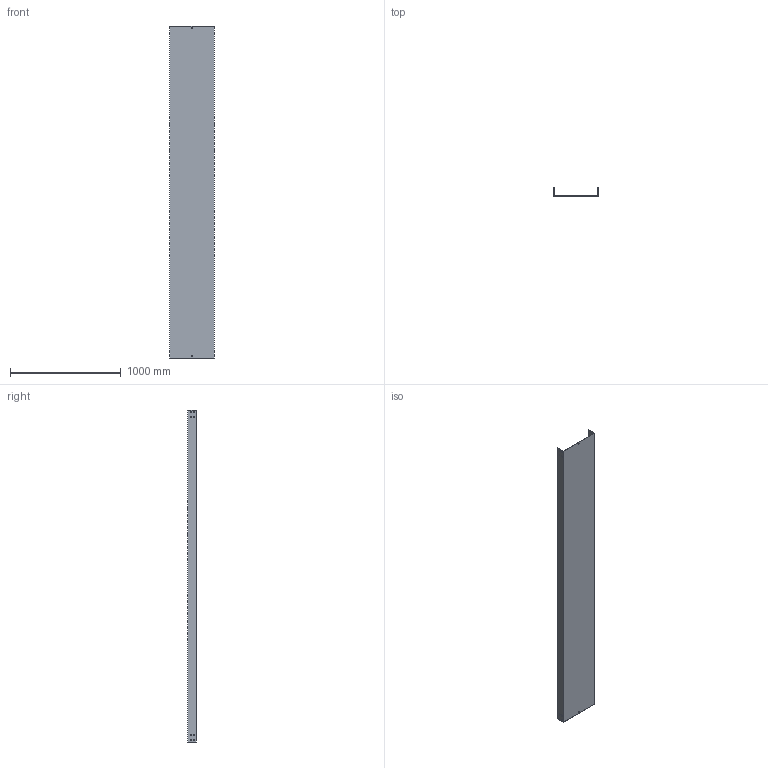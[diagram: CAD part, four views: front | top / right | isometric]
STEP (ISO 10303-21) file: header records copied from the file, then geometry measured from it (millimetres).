
FILE_DESCRIPTION (( 'STEP AP214' ), '1' );
FILE_NAME ('03B3C400.step', '2025-02-21T10:22:45', ( '' ), ( '' ), 'SwSTEP 2.0', 'SolidWorks 2023', '' );
FILE_SCHEMA (( 'AUTOMOTIVE_DESIGN' ));
Length unit declared in the file: millimetre
Products named in the file (1): 03B3C400
Bounding box: 404 x 79 x 3000 mm (x, y, z)
Volume: 5823170.5 mm3; surface area: 3354532 mm2
Topology: 1 solids, 1 shells, 82 faces, 240 edges, 160 vertices
Faces by surface type: plane 82
Entity records: 2759 total; most frequent: CARTESIAN_POINT 483, ORIENTED_EDGE 480, DIRECTION 406, LINE 240, EDGE_CURVE 240, VECTOR 240, VERTEX_POINT 160, EDGE_LOOP 118
